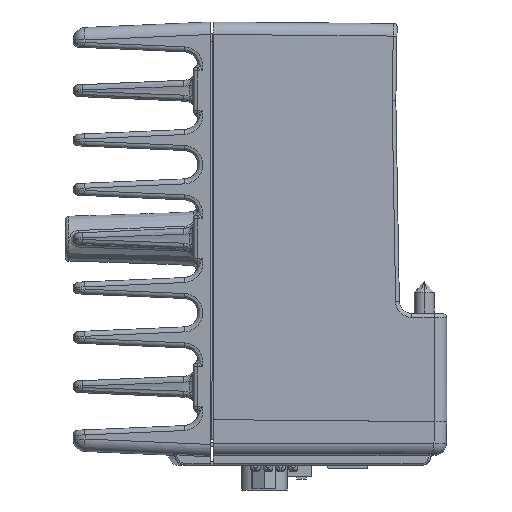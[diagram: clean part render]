
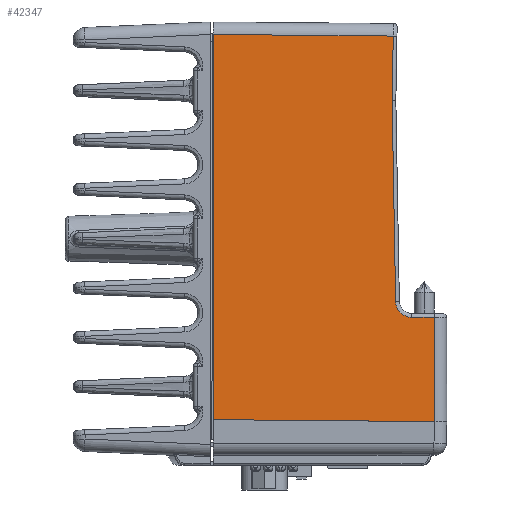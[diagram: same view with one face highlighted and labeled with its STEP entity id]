
A CAD part, left-side view. The second image highlights one B-rep face of the part: STEP entity #42347.
In plain terms, the highlighted planar face has unit normal (-1, -0.009, 0).
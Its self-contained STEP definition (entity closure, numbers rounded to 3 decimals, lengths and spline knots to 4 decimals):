
#1019=CARTESIAN_POINT('',(-1.7191,-0.3079,
-2.3657));
#1067=DIRECTION('',(0.,0.,1.));
#1068=VECTOR('',#1067,0.8334);
#1069=CARTESIAN_POINT('',(-1.7191,-0.3079,
-3.1991));
#1070=LINE('',#1069,#1068);
#14880=DIRECTION('',(0.,-0.017,1.));
#14881=VECTOR('',#14880,0.5145);
#14882=CARTESIAN_POINT('',(-1.722,0.0297,-0.627));
#14883=LINE('',#14882,#14881);
#14897=DIRECTION('',(0.009,-1.,-0.009));
#14898=VECTOR('',#14897,1.768);
#14899=CARTESIAN_POINT('',(-1.7345,1.46,-3.1837));
#14900=LINE('',#14899,#14898);
#14901=DIRECTION('',(0.,0.,1.));
#14902=VECTOR('',#14901,3.0837);
#14903=CARTESIAN_POINT('',(-1.7345,1.46,-3.1837));
#14904=LINE('',#14903,#14902);
#14905=DIRECTION('',(-0.009,1.,0.009));
#14906=VECTOR('',#14905,0.1807);
#14907=CARTESIAN_POINT('',(-1.7191,-0.3079,
-2.3657));
#14908=LINE('',#14907,#14906);
#14918=CARTESIAN_POINT('',(-1.7206,-0.1272,
-2.3641));
#14919=CARTESIAN_POINT('',(-1.7207,-0.1244,
-2.3641));
#14920=CARTESIAN_POINT('',(-1.7207,-0.1189,
-2.3639));
#14921=CARTESIAN_POINT('',(-1.7208,-0.1106,
-2.363));
#14922=CARTESIAN_POINT('',(-1.7209,-0.1023,
-2.3616));
#14923=CARTESIAN_POINT('',(-1.7209,-0.0942,
-2.3596));
#14924=CARTESIAN_POINT('',(-1.721,-0.0861,
-2.3572));
#14925=CARTESIAN_POINT('',(-1.7211,-0.0783,
-2.3542));
#14926=CARTESIAN_POINT('',(-1.7211,-0.0707,
-2.3507));
#14927=CARTESIAN_POINT('',(-1.7212,-0.0633,
-2.3468));
#14928=CARTESIAN_POINT('',(-1.7213,-0.0562,
-2.3424));
#14929=CARTESIAN_POINT('',(-1.7213,-0.0494,
-2.3375));
#14930=CARTESIAN_POINT('',(-1.7214,-0.0429,
-2.3322));
#14931=CARTESIAN_POINT('',(-1.7214,-0.0367,
-2.3265));
#14932=CARTESIAN_POINT('',(-1.7215,-0.031,
-2.3204));
#14933=CARTESIAN_POINT('',(-1.7215,-0.0256,
-2.314));
#14934=CARTESIAN_POINT('',(-1.7216,-0.0207,
-2.3072));
#14935=CARTESIAN_POINT('',(-1.7216,-0.0162,
-2.3001));
#14936=CARTESIAN_POINT('',(-1.7217,-0.0122,
-2.2928));
#14937=CARTESIAN_POINT('',(-1.7217,-0.0087,
-2.2852));
#14938=CARTESIAN_POINT('',(-1.7217,-0.0057,
-2.2774));
#14939=CARTESIAN_POINT('',(-1.7217,-0.0031,
-2.2694));
#14940=CARTESIAN_POINT('',(-1.7217,-0.0011,
-2.2613));
#14941=CARTESIAN_POINT('',(-1.7218,0.0004,
-2.253));
#14942=CARTESIAN_POINT('',(-1.7218,0.0013,
-2.2447));
#14943=CARTESIAN_POINT('',(-1.7218,0.0016,
-2.2392));
#14944=CARTESIAN_POINT('',(-1.7218,0.0017,
-2.2364));
#14987=DIRECTION('',(0.,0.017,1.));
#14988=VECTOR('',#14987,1.6096);
#14989=CARTESIAN_POINT('',(-1.7218,0.0017,
-2.2364));
#14990=LINE('',#14989,#14988);
#17011=DIRECTION('',(-0.009,1.,0.009));
#17012=VECTOR('',#17011,1.4393);
#17013=CARTESIAN_POINT('',(-1.7219,0.0208,
-0.1126));
#17014=LINE('',#17013,#17012);
#17015=CARTESIAN_POINT('',(-1.7345,1.46,-0.1));
#19912=VERTEX_POINT('',#17015);
#19940=CARTESIAN_POINT('',(-1.7345,1.46,-3.1837));
#19941=VERTEX_POINT('',#19940);
#19962=CARTESIAN_POINT('',(-1.7191,-0.3079,
-3.1991));
#19963=VERTEX_POINT('',#19962);
#20480=VERTEX_POINT('',#1019);
#20483=CARTESIAN_POINT('',(-1.7206,-0.1272,
-2.3641));
#20484=VERTEX_POINT('',#20483);
#20487=VERTEX_POINT('',#14944);
#20491=CARTESIAN_POINT('',(-1.722,0.0297,-0.627));
#20492=VERTEX_POINT('',#20491);
#20493=CARTESIAN_POINT('',(-1.7219,0.0208,
-0.1126));
#20494=VERTEX_POINT('',#20493);
#42328=CARTESIAN_POINT('',(-1.7345,1.46,0.0866));
#42329=DIRECTION('',(1.,0.009,0.));
#42330=DIRECTION('',(0.,0.,-1.));
#42331=AXIS2_PLACEMENT_3D('',#42328,#42329,#42330);
#42332=PLANE('',#42331);
#42334=ORIENTED_EDGE('',*,*,#42333,.F.);
#42335=ORIENTED_EDGE('',*,*,#24115,.F.);
#42336=ORIENTED_EDGE('',*,*,#24129,.F.);
#42337=ORIENTED_EDGE('',*,*,#24718,.T.);
#42339=ORIENTED_EDGE('',*,*,#42338,.F.);
#42340=ORIENTED_EDGE('',*,*,#42318,.F.);
#42342=ORIENTED_EDGE('',*,*,#42341,.F.);
#42344=ORIENTED_EDGE('',*,*,#42343,.F.);
#42345=EDGE_LOOP('',(#42334,#42335,#42336,#42337,#42339,#42340,#42342,#42344));
#42346=FACE_OUTER_BOUND('',#42345,.F.);
#42347=ADVANCED_FACE('',(#42346),#42332,.F.);
#14945=B_SPLINE_CURVE_WITH_KNOTS('',3,(#14918,#14919,#14920,#14921,#14922,
#14923,#14924,#14925,#14926,#14927,#14928,#14929,#14930,#14931,#14932,#14933,
#14934,#14935,#14936,#14937,#14938,#14939,#14940,#14941,#14942,#14943,#14944),
.UNSPECIFIED.,.F.,.F.,(4,1,1,1,1,1,1,1,1,1,1,1,1,1,1,1,1,1,1,1,1,1,1,1,4),(0.,
0.0417,0.0833,0.125,0.1667,0.2083,
0.25,0.2917,0.3333,0.375,0.4167,
0.4583,0.5,0.5417,0.5833,0.625,
0.6667,0.7083,0.75,0.7917,0.8333,
0.875,0.9167,0.9583,1.),.UNSPECIFIED.);
#24115=EDGE_CURVE('',#19963,#20480,#1070,.T.);
#24129=EDGE_CURVE('',#19941,#19963,#14900,.T.);
#24718=EDGE_CURVE('',#19941,#19912,#14904,.T.);
#42318=EDGE_CURVE('',#20492,#20494,#14883,.T.);
#42333=EDGE_CURVE('',#20480,#20484,#14908,.T.);
#42338=EDGE_CURVE('',#20494,#19912,#17014,.T.);
#42341=EDGE_CURVE('',#20487,#20492,#14990,.T.);
#42343=EDGE_CURVE('',#20484,#20487,#14945,.T.);
